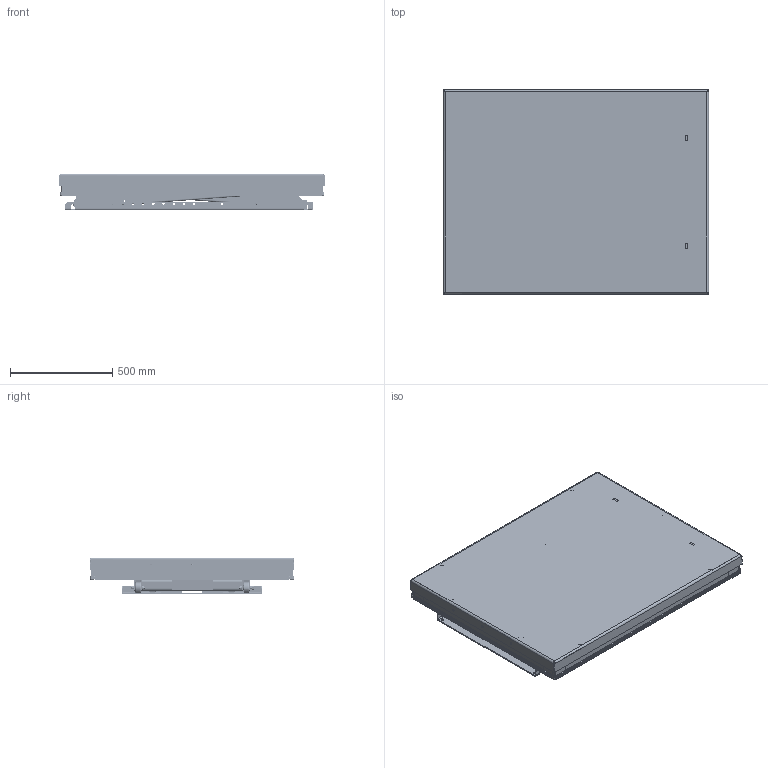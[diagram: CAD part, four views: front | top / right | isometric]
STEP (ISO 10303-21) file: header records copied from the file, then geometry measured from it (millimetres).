
FILE_DESCRIPTION(/* description */ ('Bottenram '),/* implementation_level */ '2;1');
FILE_NAME(/* name */ '\\EDMOFILE01\Users$\JOAED\Desktop\TL 1000XB (32925)\32925_Collapsed.stp',/* time_stamp */ '2016-02-19T12:48:17+01:00',/* author */ ('joaed'),/* organization */ (''),/* preprocessor_version */ 'ST-DEVELOPER v15.6',/* originating_system */ 'Autodesk Inventor 2015',/* authorisation */ '');
FILE_SCHEMA (('AUTOMOTIVE_DESIGN { 1 0 10303 214 3 1 1 }'));
Products named in the file (59): 611365; 45258; 44681; 611364; 44411; 83230-580; 43785; 43744; 34827; 83228-200; 32903; 43743; 34816; 44669; 34815; 82156; ISO 4017 - M10 x 20ISO; 34977; 32081; 42394; ISO 4016 - M8 x 45; 32080C; 42289-953; 42289-1273; 42330; 42331; 33991; 44283; 44280; 44279; 44282; ISO 7089 - 5 - 140 HV(1); 84253; 44281-1; ISO 2009 - M4 x 12ISO 7,9; 44281; 84076; 83928; 44277; 44278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
Assembly tree (122 placements, depth 5):
  32925C
    611364
      611365
      45258  x2
      44681  x2
    34977
      43785
        44411
        83230-580
      32903
        43744
        34827  x2
        83228-200
      34815
        43743
        34816  x2
        44669  x2
      82156  x2
      ISO 4017 - M10 x 20ISO
    32080C
      32081
      45258  x2
      42394  x2
      ISO 4016 - M8 x 45  x4
    601559
      42289-953  x2
      42289-1273  x2
      42330  x4
      42331  x4
      33990  x2
        33991
        44283
        44280
        44279
        44282
        ISO 7089 - 5 - 140 HV(1)
        84253
        44281
          44281-1
          ISO 2009 - M4 x 12ISO 7,9
        84076
        83928
        44277
        44278
        33992
        ISO 7380 - M4 x 10
      43476  x4
      43481  x4
      ISO 4032 - M8ISO  x4
    42584  x4
    42513  x4
    42401  x2
    42663
      42663_Welds
      42662
      82553-395
    83242  x3
    83241  x5
    80476  x8
    84409  x10
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Bounding box: 1300 x 1000 x 180 mm (x, y, z)
Volume: 17741095.9 mm3; surface area: 8340777 mm2
Topology: 134 solids, 134 shells, 5519 faces, 14655 edges, 9525 vertices
Faces by surface type: plane 2780, cylinder 1883, bspline 524, cone 206, torus 78, sphere 48
Full cylindrical faces by diameter (mm): 0.474 x2, 1 x4, 3 x4, 3.141 x4, 3.2 x4, 3.242 x4, 4 x14, 4.3 x4, 4.9 x2, 5 x4, 5.2 x6, 5.3 x4, 5.55 x2, 6.647 x4, 6.8 x8, 7.4 x6, 7.6 x4, 8 x10, 8.376 x8, 8.5 x4, 9 x1, 10 x19, 10.2 x16, 10.5 x23, 11 x8, 12 x5, 12.5 x2, 13 x10, 14.63 x9, 16 x14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
Entity records: 89385 total; most frequent: CARTESIAN_POINT 23441, ORIENTED_EDGE 13590, DIRECTION 12947, EDGE_CURVE 6793, VERTEX_POINT 4549, AXIS2_PLACEMENT_3D 4364, LINE 4219, VECTOR 4219
